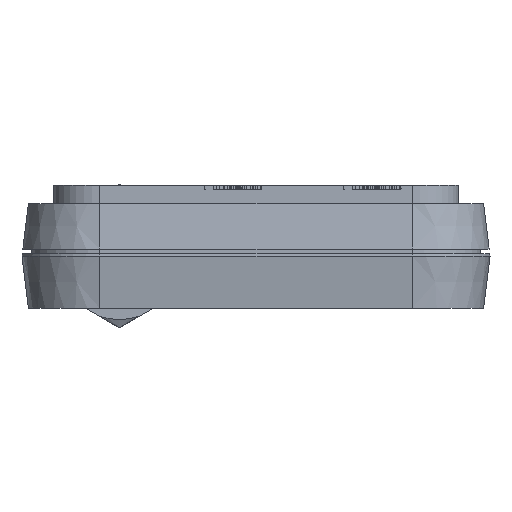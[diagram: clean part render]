
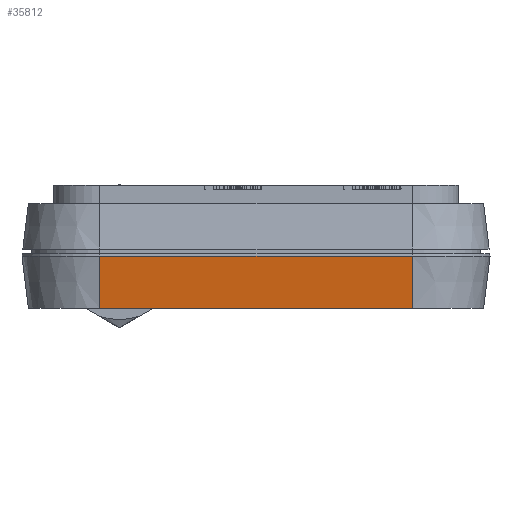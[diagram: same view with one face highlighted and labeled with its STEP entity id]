
A CAD part, left-side view. The second image highlights one B-rep face of the part: STEP entity #35812.
In plain terms, the highlighted planar face has unit normal (-0.993, 0, -0.122).
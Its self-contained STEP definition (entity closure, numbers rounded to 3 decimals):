
#472=DIRECTION('',(0.,-1.,0.));
#473=VECTOR('',#472,20.1);
#474=CARTESIAN_POINT('',(-52.55,10.05,-3.35));
#475=LINE('',#474,#473);
#479=DIRECTION('',(0.,1.,0.));
#480=VECTOR('',#479,20.1);
#481=CARTESIAN_POINT('',(-52.139,-10.05,-6.7));
#482=LINE('',#481,#480);
#493=DIRECTION('',(-0.122,0.,0.993));
#494=VECTOR('',#493,3.375);
#495=CARTESIAN_POINT('',(-52.139,-10.05,-6.7));
#496=LINE('',#495,#494);
#590=DIRECTION('',(0.122,0.,-0.993));
#591=VECTOR('',#590,3.375);
#592=CARTESIAN_POINT('',(-52.55,10.05,-3.35));
#593=LINE('',#592,#591);
#31348=CARTESIAN_POINT('',(-52.139,-10.05,-6.7));
#31350=VERTEX_POINT('',#31348);
#31391=CARTESIAN_POINT('',(-52.139,10.05,-6.7));
#31392=VERTEX_POINT('',#31391);
#31400=CARTESIAN_POINT('',(-52.55,-10.05,-3.35));
#31402=VERTEX_POINT('',#31400);
#31413=CARTESIAN_POINT('',(-52.55,10.05,-3.35));
#31414=VERTEX_POINT('',#31413);
#35798=CARTESIAN_POINT('',(-52.55,10.05,-3.35));
#35799=DIRECTION('',(-0.993,0.,-0.122));
#35800=DIRECTION('',(0.,-1.,0.));
#35801=AXIS2_PLACEMENT_3D('',#35798,#35799,#35800);
#35802=PLANE('',#35801);
#35803=ORIENTED_EDGE('',*,*,#35788,.T.);
#35805=ORIENTED_EDGE('',*,*,#35804,.F.);
#35807=ORIENTED_EDGE('',*,*,#35806,.T.);
#35809=ORIENTED_EDGE('',*,*,#35808,.F.);
#35810=EDGE_LOOP('',(#35803,#35805,#35807,#35809));
#35811=FACE_OUTER_BOUND('',#35810,.F.);
#35788=EDGE_CURVE('',#31414,#31402,#475,.T.);
#35804=EDGE_CURVE('',#31350,#31402,#496,.T.);
#35806=EDGE_CURVE('',#31350,#31392,#482,.T.);
#35808=EDGE_CURVE('',#31414,#31392,#593,.T.);
#35812=ADVANCED_FACE('',(#35811),#35802,.T.);
